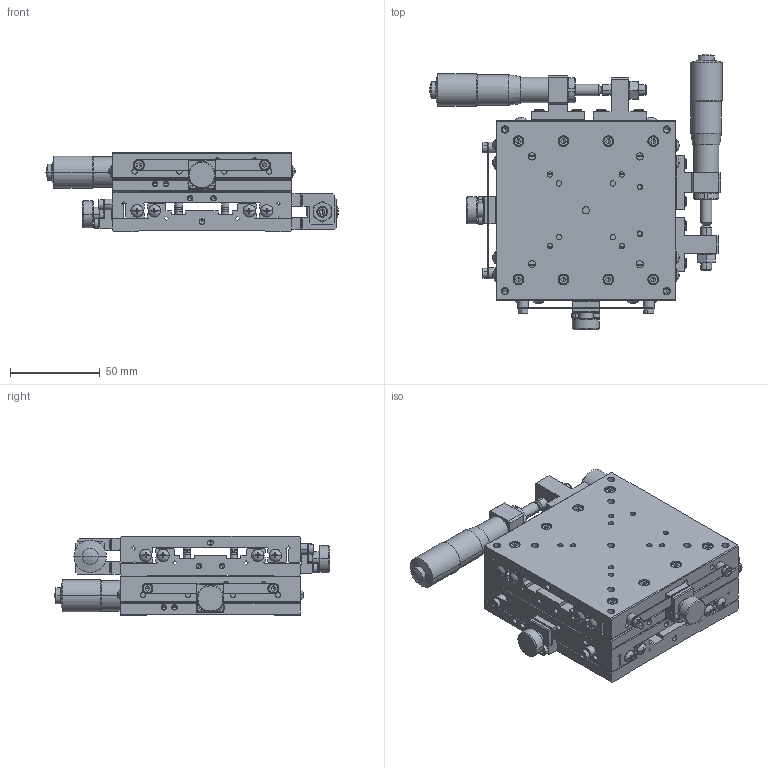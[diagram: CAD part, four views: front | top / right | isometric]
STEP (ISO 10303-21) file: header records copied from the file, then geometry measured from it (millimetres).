
FILE_DESCRIPTION (( 'STEP AP214' ), '1' );
FILE_NAME ('YM10F-S1.STEP', '2009-05-11T08:15:05', ( ' ' ), ( ' ' ), 'SwSTEP 2.0', 'SolidWorks 2008', '' );
FILE_SCHEMA (( 'AUTOMOTIVE_DESIGN' ));
Length unit declared in the file: millimetre
Products named in the file (6): 001190-1011(3D)-2; XM10F-S1(PL); 001190-1011(3D)-3; XM10F-S1(PL)-1; 001190-1023(3D)-4; YM10F-S1
Assembly tree (5 placements, depth 3):
  YM10F-S1
    XM10F-S1(PL)
      001190-1011(3D)-2
    XM10F-S1(PL)-1
      001190-1011(3D)-3
      001190-1023(3D)-4
Bounding box: 163 x 153.5 x 44 mm (x, y, z)
Volume: 415236.6 mm3; surface area: 166389.2 mm2
Topology: 3 solids, 109 shells, 3756 faces, 8898 edges, 5336 vertices
Faces by surface type: plane 1756, cylinder 1126, cone 802, sphere 40, torus 32
Entity records: 106935 total; most frequent: DIRECTION 19538, CARTESIAN_POINT 19126, ORIENTED_EDGE 17324, EDGE_CURVE 8662, AXIS2_PLACEMENT_3D 7448, VERTEX_POINT 5336, VECTOR 4642, LINE 4642
